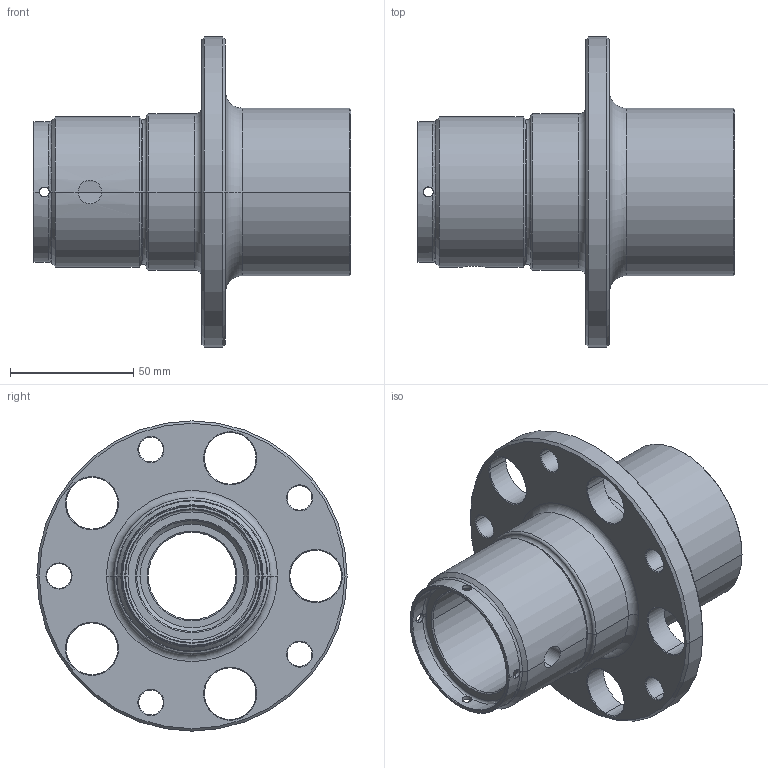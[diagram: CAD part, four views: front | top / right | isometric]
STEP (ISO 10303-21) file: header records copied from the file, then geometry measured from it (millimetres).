
FILE_DESCRIPTION (( 'STEP AP203' ), '1' );
FILE_NAME ('Alfa Romeo Group.A center lock hub.STEP', '2025-03-01T16:31:19', ( '' ), ( '' ), 'SwSTEP 2.0', 'SolidWorks 2019', '' );
FILE_SCHEMA (( 'CONFIG_CONTROL_DESIGN' ));
Length unit declared in the file: millimetre
Products named in the file (1): Alfa Romeo Group.A center lock hub
Bounding box: 129 x 126 x 126 mm (x, y, z)
Volume: 251780 mm3; surface area: 68065.6 mm2
Topology: 1 solids, 1 shells, 126 faces, 343 edges, 210 vertices
Faces by surface type: cylinder 56, cone 46, torus 16, plane 8
Entity records: 4667 total; most frequent: CARTESIAN_POINT 1313, DIRECTION 726, ORIENTED_EDGE 686, EDGE_CURVE 343, AXIS2_PLACEMENT_3D 311, VERTEX_POINT 210, CIRCLE 184, EDGE_LOOP 149
